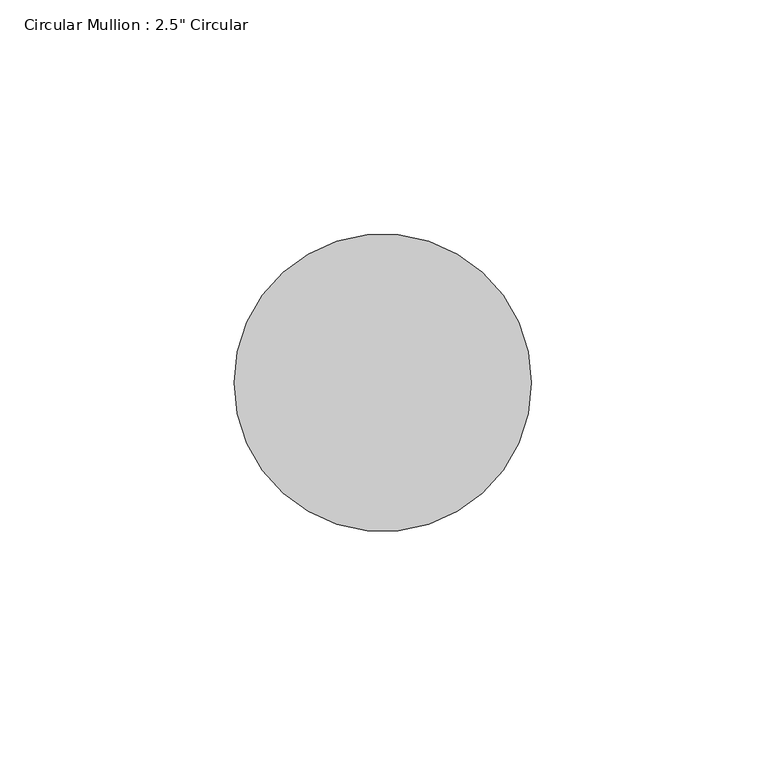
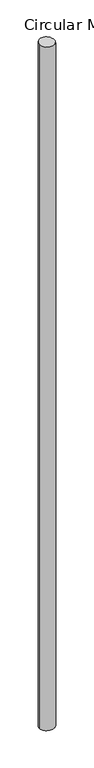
"""IFC4 building model written with IfcOpenShell, lengths in millimetres: member geometry."""

import ifcopenshell
import ifcopenshell.guid

model = None  # the IFC model being written
_history = None  # IfcOwnerHistory: only IFC2X3 demands one
_inside = {}  # id of a spatial element -> (the spatial element, [elements in it])
_under = {}  # id of a project, library or spatial element -> (it, [spatial elements below it])
_declared = {}  # id of a project -> (the project, [libraries it declares])
_typed = {}  # id of a type object -> (the type object, [elements of that type])
_made_of = {}  # id of a material, layer set ... -> (it, [elements and type objects made of it])


def new_model(schema):
    """Start an empty IFC model of exactly this schema.

    Asked for "IFC4X3", IfcOpenShell would pick the latest addendum, in which some entities
    have other attributes; the version numbers below select the first issue.
    IFC2X3 requires an IfcOwnerHistory on every rooted entity: one is made here for all.
    """
    global model, _history
    if schema == "IFC4X3":
        model = ifcopenshell.file(schema_version=(4, 3, 0, 0))
    else:
        model = ifcopenshell.file(schema=schema)
    _inside.clear()
    _under.clear()
    _declared.clear()
    _typed.clear()
    _made_of.clear()
    _history = None
    if model.schema == "IFC2X3":
        org = make("IfcOrganization", Name="unknown")
        user = make(
            "IfcPersonAndOrganization",
            ThePerson=make("IfcPerson", FamilyName="unknown"),
            TheOrganization=org,
        )
        app = make(
            "IfcApplication",
            ApplicationDeveloper=org,
            Version="unknown",
            ApplicationFullName="unknown",
            ApplicationIdentifier="unknown",
        )
        _history = make(
            "IfcOwnerHistory",
            OwningUser=user,
            OwningApplication=app,
            ChangeAction="ADDED",
            CreationDate=0,
        )
    return model


def make(cls, **values):
    """One entity of the class cls with the attributes given. An attribute that is None is left unset."""
    return model.create_entity(
        cls, **{name: value for name, value in values.items() if value is not None}
    )


def rooted(cls, **values):
    """An entity with a GlobalId (a new one), such as an element, a storey or a relation."""
    return make(cls, GlobalId=ifcopenshell.guid.new(), OwnerHistory=_history, **values)


def si_unit(unit_type, name, prefix=None):
    """IfcSIUnit, for example si_unit("LENGTHUNIT", "METRE", prefix="MILLI")."""
    return make("IfcSIUnit", UnitType=unit_type, Prefix=prefix, Name=name)


def assignment(units):
    """IfcUnitAssignment: the units of a project."""
    return None if units is None else make("IfcUnitAssignment", Units=units)


def point(xyz):
    """IfcCartesianPoint."""
    return None if xyz is None else make("IfcCartesianPoint", Coordinates=xyz)


def direction(xyz):
    """IfcDirection."""
    return None if xyz is None else make("IfcDirection", DirectionRatios=xyz)


def frame(location, z_axis=None, x_axis=None):
    """IfcAxis2Placement3D, a coordinate frame: its origin and axes. An axis left out is left unset."""
    return make(
        "IfcAxis2Placement3D",
        Location=point(location),
        Axis=direction(z_axis),
        RefDirection=direction(x_axis),
    )


def origin():
    """The frame at (0, 0, 0) with its axes left unset."""
    return frame((0.0, 0.0, 0.0))


def origin_with_axes():
    """The frame at (0, 0, 0) with the z axis (0, 0, 1) and the x axis (1, 0, 0) written out."""
    return frame((0.0, 0.0, 0.0), z_axis=(0.0, 0.0, 1.0), x_axis=(1.0, 0.0, 0.0))


def place(relative_to, where):
    """IfcLocalPlacement: puts the frame where relative to a parent placement (None: the world)."""
    return make(
        "IfcLocalPlacement", PlacementRelTo=relative_to, RelativePlacement=where
    )


def context(
    kind, dimensions, precision=None, world=None, true_north=None, identifier=None
):
    """IfcGeometricRepresentationContext, for example the 3D "Model" context."""
    return make(
        "IfcGeometricRepresentationContext",
        ContextIdentifier=identifier,
        ContextType=kind,
        CoordinateSpaceDimension=dimensions,
        Precision=precision,
        WorldCoordinateSystem=world,
        TrueNorth=true_north,
    )


def project(units=None, contexts=None):
    """IfcProject with its units and contexts."""
    return rooted(
        "IfcProject",
        Name="project",
        RepresentationContexts=contexts,
        UnitsInContext=assignment(units),
    )


def spatial(cls, under=None, at=None, **own):
    """A site, building, storey or space (cls), placed at a placement, below another one or the project."""
    s = rooted(cls, ObjectPlacement=at, **own)
    if under is not None:
        _under.setdefault(under.id(), (under, []))[1].append(s)
    return s


def ellipse_curve(where, semi_axis1, semi_axis2):
    """IfcEllipse in the frame where."""
    return make(
        "IfcEllipse", Position=where, SemiAxis1=semi_axis1, SemiAxis2=semi_axis2
    )


def shape(context_of_items, identifier, shape_type, items):
    """IfcShapeRepresentation: the items that make up one representation, for example the "Body"."""
    return make(
        "IfcShapeRepresentation",
        ContextOfItems=context_of_items,
        RepresentationIdentifier=identifier,
        RepresentationType=shape_type,
        Items=items,
    )


def source(mapping_origin, context_of_items, identifier, shape_type, items):
    """IfcRepresentationMap: a shape defined once, which mapped items show again and again."""
    return make(
        "IfcRepresentationMap",
        MappingOrigin=mapping_origin,
        MappedRepresentation=shape(context_of_items, identifier, shape_type, items),
    )


def transform(
    local_origin,
    x_axis=None,
    y_axis=None,
    z_axis=None,
    scale=None,
    scale2=None,
    scale3=None,
    uniform=True,
):
    """IfcCartesianTransformationOperator3D, or its non-uniform kind. x_axis, y_axis, z_axis: its Axis1, 2, 3."""
    if uniform:
        return make(
            "IfcCartesianTransformationOperator3D",
            Axis1=direction(x_axis),
            Axis2=direction(y_axis),
            LocalOrigin=point(local_origin),
            Scale=scale,
            Axis3=direction(z_axis),
        )
    return make(
        "IfcCartesianTransformationOperator3DnonUniform",
        Axis1=direction(x_axis),
        Axis2=direction(y_axis),
        LocalOrigin=point(local_origin),
        Scale=scale,
        Axis3=direction(z_axis),
        Scale2=scale2,
        Scale3=scale3,
    )


def mapped(mapping_source, mapping_target):
    """IfcMappedItem: shows the shape of a source again, moved by a transform."""
    return make(
        "IfcMappedItem", MappingSource=mapping_source, MappingTarget=mapping_target
    )


def made_of(thing, what):
    """Note that an element or type object is made of a material, layer set ...; save() writes the relation."""
    if what is not None:
        _made_of.setdefault(what.id(), (what, []))[1].append(thing)
    return thing


def element(
    cls,
    number,
    at=None,
    inside=None,
    cuts=None,
    type_object=None,
    material=None,
    context=None,
    identifier="Body",
    shape_type=None,
    held_by="IfcProductDefinitionShape",
    body=None,
    shapes=None,
    **own,
):
    """One element of the class cls, such as IfcWall. Its Tag is "e" and its number.

    at: its placement. inside: the storey or other place that contains it. cuts: it is an
    opening in that element (IfcRelVoidsElement). A single representation is given by context,
    identifier, shape_type and body (its items); several are given by shapes. held_by: the class
    of the entity that holds the representations. save() writes the other relations.
    """
    e = rooted(cls, Tag="e%d" % number, ObjectPlacement=at, **own)
    if body is not None:
        shapes = [shape(context, identifier, shape_type, body)]
    if shapes is not None:
        e.Representation = make(held_by, Representations=shapes)
    if inside is not None:
        _inside.setdefault(inside.id(), (inside, []))[1].append(e)
    if cuts is not None:
        rooted(
            "IfcRelVoidsElement", RelatingBuildingElement=cuts, RelatedOpeningElement=e
        )
    if type_object is not None:
        _typed.setdefault(type_object.id(), (type_object, []))[1].append(e)
    return made_of(e, material)


def aggregate(whole, parts):
    """IfcRelAggregates: a whole, such as a stair, and the parts it consists of."""
    return rooted("IfcRelAggregates", RelatingObject=whole, RelatedObjects=parts)


def save(model, path):
    """Write the relations noted so far, then the file.

    IfcRelAggregates (storeys below a building ...), IfcRelContainedInSpatialStructure (elements
    in a storey), IfcRelDefinesByType, IfcRelAssociatesMaterial and IfcRelDeclares: one each for
    every whole, place, type object, material and project.
    """
    for whole, parts in _under.values():
        aggregate(whole, parts)
    for where, things in _inside.values():
        rooted(
            "IfcRelContainedInSpatialStructure",
            RelatedElements=things,
            RelatingStructure=where,
        )
    for kind, things in _typed.values():
        rooted("IfcRelDefinesByType", RelatedObjects=things, RelatingType=kind)
    for what, things in _made_of.values():
        rooted("IfcRelAssociatesMaterial", RelatedObjects=things, RelatingMaterial=what)
    for by, libraries in _declared.values():
        rooted("IfcRelDeclares", RelatingContext=by, RelatedDefinitions=libraries)
    model.write(path)


def plane_surface(at):
    """IfcPlane: the flat surface through the origin of the frame at, square to its z axis."""
    return make("IfcPlane", Position=at)


def cylinder_surface(at, radius):
    """IfcCylindricalSurface: all points at the distance radius from the z axis of the frame at."""
    return make("IfcCylindricalSurface", Position=at, Radius=radius)


def advanced_brep(points, edges, surfaces, faces):
    """IfcAdvancedBrep: a solid bounded by faces that lie on surfaces and meet in shared edges.

    An edge is (start, end): straight between two places in points (the first is 0);
    or (start, end, curve); or (start, end, curve, False) where it runs against its curve.
    A face is (place in surfaces, loops), or (place, loops, False) where it looks against
    its surface's normal. A loop lists edges by number (the first is 1), with a minus sign
    where the edge is run from its end to its start. The first loop is the outer one.
    """
    corners = [point(p) for p in points]
    vertices = [make("IfcVertexPoint", VertexGeometry=c) for c in corners]
    made = []
    for start, end, *more in edges:
        made.append(
            make(
                "IfcEdgeCurve",
                EdgeStart=vertices[start],
                EdgeEnd=vertices[end],
                EdgeGeometry=more[0] if more else make("IfcPolyline", Points=[corners[start], corners[end]]),
                SameSense=more[1] if len(more) > 1 else True,
            )
        )
    hull = []
    for where, loops, *sense in faces:
        bounds = []
        for j, loop in enumerate(loops):
            ring = [make("IfcOrientedEdge", EdgeElement=made[abs(k) - 1], Orientation=k > 0) for k in loop]
            bounds.append(
                make(
                    "IfcFaceOuterBound" if j == 0 else "IfcFaceBound",
                    Bound=make("IfcEdgeLoop", EdgeList=ring),
                    Orientation=True,
                )
            )
        hull.append(make("IfcAdvancedFace", Bounds=bounds, FaceSurface=surfaces[where], SameSense=sense[0] if sense else True))
    return make("IfcAdvancedBrep", Outer=make("IfcClosedShell", CfsFaces=hull))


def member_a4a2a518(model_context):
    return source(origin(), model_context, "Body", "AdvancedBrep", [
        advanced_brep(
        [(-31.75, 0.0, 0.5514644), (31.75, 0.0, -0.5514644), (31.75, 0.0, -3040.2667171), (-31.75, 0.0, -3041.6269419)],
        [
            (0, 1, ellipse_curve(frame((0.0, 0.0, 0.0), z_axis=(-0.017350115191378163, 0.04321416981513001, -0.9989151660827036), x_axis=(-0.3721792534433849, 0.926991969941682, 0.04656705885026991)), 31.7844809, 31.75)),
            (1, 2),
            (2, 3, ellipse_curve(frame((0.0, 0.0, -3040.9468295), z_axis=(-0.021380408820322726, 0.05758819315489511, 0.9981114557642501), x_axis=(0.3473934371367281, -0.9357052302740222, 0.061428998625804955)), 31.8100747, 31.75)),
            (3, 0),
            (1, 0, ellipse_curve(frame((0.0, 0.0, 0.0), z_axis=(-0.017350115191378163, 0.04321416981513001, -0.9989151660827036), x_axis=(-0.3721792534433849, 0.926991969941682, 0.04656705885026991)), 31.7844809, 31.75)),
            (3, 2, ellipse_curve(frame((0.0, 0.0, -3040.9468295), z_axis=(-0.021380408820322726, 0.05758819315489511, 0.9981114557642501), x_axis=(0.3473934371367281, -0.9357052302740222, 0.061428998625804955)), 31.8100747, 31.75)),
        ],
        [
            cylinder_surface(origin_with_axes(), 31.75),
            plane_surface(frame((282.8540021, 113.5634339, 0.0), z_axis=(0.017350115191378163, -0.04321416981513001, 0.9989151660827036), x_axis=(0.3721792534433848, -0.9269919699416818, -0.0465670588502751))),
            plane_surface(frame((285.7425917, 106.0858675, -3040.9468295), z_axis=(0.021380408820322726, -0.05758819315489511, -0.9981114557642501), x_axis=(0.34739343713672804, -0.9357052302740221, 0.06142899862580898))),
        ],
        [
            (0, [[1, 2, 3, 4]]),
            (0, [[5, -4, 6, -2]]),
            (1, [[-1, -5]]),
            (2, [[-6, -3]]),
        ],
    ),
    ])


if __name__ == "__main__":
    model = new_model("IFC4")
    model_context = context("Model", 3, world=origin())
    ifc_project = project(units=[si_unit("LENGTHUNIT", "METRE", prefix="MILLI")], contexts=[model_context])
    site = spatial("IfcSite", under=ifc_project)
    building = spatial("IfcBuilding", under=site)
    placement = place(None, origin())
    member_shape = member_a4a2a518(model_context)
    element("IfcMember", 1, ObjectType="Circular Mullion : 2.5\" Circular", at=placement, inside=building, context=model_context, shape_type="MappedRepresentation", body=[
        mapped(member_shape, transform((0.0, 0.0, 0.0), x_axis=(1.0, 0.0, 0.0), y_axis=(0.0, 1.0, 0.0), z_axis=(0.0, 0.0, 1.0))),
    ])
    save(model, "model.ifc")
